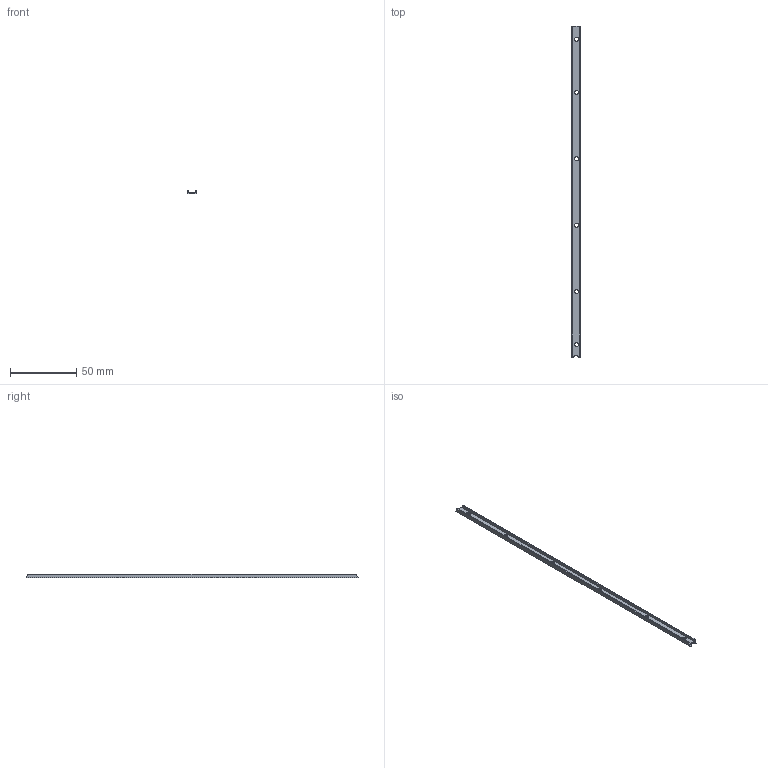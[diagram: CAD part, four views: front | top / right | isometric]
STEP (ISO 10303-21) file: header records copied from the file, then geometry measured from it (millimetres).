
FILE_DESCRIPTION (( 'STEP AP214' ), '1' );
FILE_NAME ('沭湍滄湛揤啣.STEP', '2024-04-21T14:27:56', ( 'joe' ), ( '' ), 'SwSTEP 2.0', 'SolidWorks 2023', '' );
FILE_SCHEMA (( 'AUTOMOTIVE_DESIGN' ));
Length unit declared in the file: millimetre
Products named in the file (1): 条带飞达压板
Bounding box: 6.46 x 250 x 2.9 mm (x, y, z)
Volume: 2317.9 mm3; surface area: 5587.8 mm2
Topology: 1 solids, 1 shells, 24 faces, 66 edges, 44 vertices
Faces by surface type: cylinder 13, plane 11
Entity records: 823 total; most frequent: CARTESIAN_POINT 141, DIRECTION 140, ORIENTED_EDGE 132, EDGE_CURVE 66, AXIS2_PLACEMENT_3D 51, VERTEX_POINT 44, VECTOR 38, LINE 38
